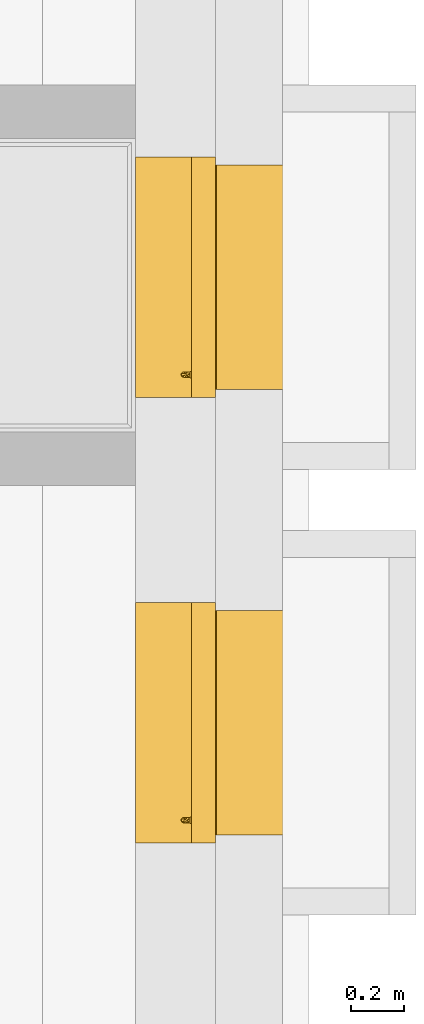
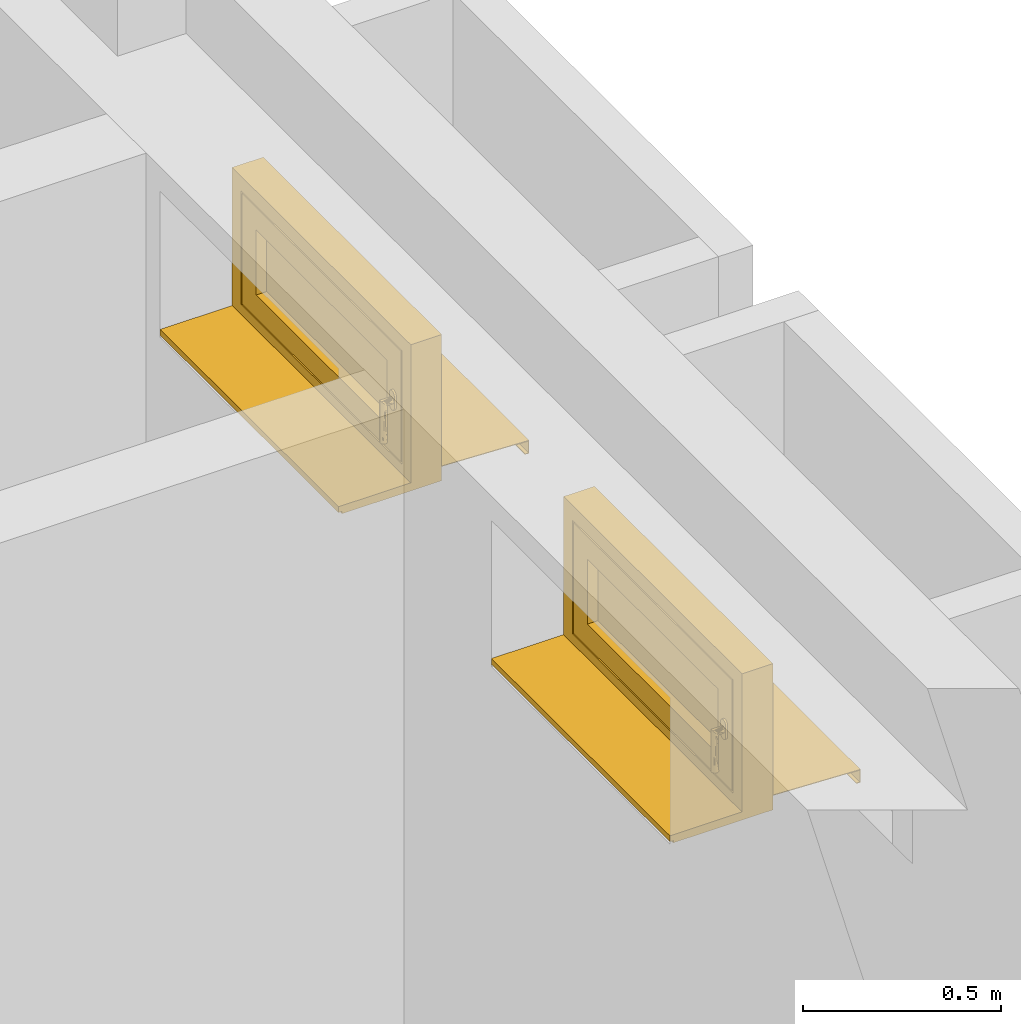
# One storey, part 19 of 22: 2 windows.
"""IFC2X3 building model written with IfcOpenShell, lengths in metres."""

from ifc_helpers import new_model, entity, si_unit, converted_unit, derived_unit, direction, frame, origin, origin_2d_with_axis, place, context, subcontext, project, spatial, polyline, rectangle, outline, extrude, faceted_brep, source, transform, mapped, material, material_list, type_object, type_shapes, element, save


model = new_model("IFC2X3")

# Units and contexts
model_context = context("Model", 3, precision=1e-05, world=origin(), true_north=direction((6.123233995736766e-17, 1.0)))
body_context = subcontext(model_context, "Body", "Model", "MODEL_VIEW")
ifc_project = project(units=[si_unit("LENGTHUNIT", "METRE"), si_unit("AREAUNIT", "SQUARE_METRE"), si_unit("VOLUMEUNIT", "CUBIC_METRE"), si_unit("POWERUNIT", "WATT"), derived_unit("USERDEFINED", [(si_unit("MASSUNIT", "GRAM", prefix="KILO"), 1), (si_unit("TIMEUNIT", "SECOND"), -3)]), derived_unit("THERMALRESISTANCEUNIT", [(si_unit("MASSUNIT", "GRAM", prefix="KILO"), -1), (si_unit("TIMEUNIT", "SECOND"), 3), (si_unit("THERMODYNAMICTEMPERATUREUNIT", "KELVIN"), 1)]), derived_unit("USERDEFINED", [(si_unit("MASSUNIT", "GRAM", prefix="KILO"), 1), (si_unit("TIMEUNIT", "SECOND"), -2), (si_unit("THERMODYNAMICTEMPERATUREUNIT", "KELVIN"), -1)]), derived_unit("THERMALTRANSMITTANCEUNIT", [(si_unit("MASSUNIT", "GRAM", prefix="KILO"), 1), (si_unit("TIMEUNIT", "SECOND"), -3), (si_unit("THERMODYNAMICTEMPERATUREUNIT", "KELVIN"), -1)]), converted_unit("PLANEANGLEUNIT", "DEGREE", entity("IfcPlaneAngleMeasure", 0.017453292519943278), si_unit("PLANEANGLEUNIT", "RADIAN"), dimensions=[0, 0, 0, 0, 0, 0, 0]), derived_unit("MOMENTOFINERTIAUNIT", [(si_unit("LENGTHUNIT", "METRE"), 4)])], contexts=[model_context])

# Site, building, storey
site_placement = place(None, origin())
site = spatial("IfcSite", under=ifc_project, at=site_placement, Name="Default", CompositionType="ELEMENT")
building_placement = place(site_placement, origin())
building = spatial("IfcBuilding", under=site, at=building_placement, CompositionType="ELEMENT")
storey_placement = place(building_placement, origin())
storey = spatial("IfcBuildingStorey", under=building, at=storey_placement, Name="Untergeschoss", CompositionType="ELEMENT", Elevation=0.0)

# Windows
ifc_material_1 = material(Name="Glas - Isolierverglasung klar")
ifc_material_2 = material(Name="Holz - generisch 140-100-70")
ifc_material_3 = material(Name="Metall - Edelstahl gebürstet")
ifc_material_4 = material(Name="Kunststoff - grau 70-70-70")
ifc_material_list = material_list([ifc_material_1, ifc_material_2, ifc_material_3, ifc_material_4])
window_style = type_object("IfcWindowStyle", Name="FE 1 tlg - DrehKipp:900 x 450", ConstructionType="NOTDEFINED", OperationType="NOTDEFINED", ParameterTakesPrecedence=False, Sizeable=False, material=ifc_material_list)
shared_shape = source(origin(), body_context, "Body", "SolidModel", [
    extrude(rectangle(XDim=0.04399999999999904, YDim=0.6600000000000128, at=origin_2d_with_axis()), frame((0.45000000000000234, -0.2870000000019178, 0.13000000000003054), z_axis=(0.0, 0.0, 1.0), x_axis=(0.0, -1.0, 0.0)), (0.0, 0.0, 1.0), 0.19999999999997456),
    extrude(outline(polyline([(-0.014333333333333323, -0.07333333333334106), (0.0036666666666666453, -0.07333333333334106), (0.0036666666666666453, -0.06333333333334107), (0.010666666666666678, -0.06333333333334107), (0.010666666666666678, 0.13666666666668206), (-0.014333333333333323, 0.13666666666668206), (-0.014333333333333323, -0.07333333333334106)])), frame((0.0, -0.47666666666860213, 0.010666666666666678), z_axis=(1.0, 0.0, 0.0), x_axis=(0.0, 0.0, -1.0)), (0.0, 0.0, 1.0), 0.8999999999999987),
    faceted_brep([(0.8270740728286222, -0.3400000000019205, 0.20926476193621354), (0.8258253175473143, -0.3400000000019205, 0.20624999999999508), (0.8238388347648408, -0.3400000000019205, 0.20366116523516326), (0.8212500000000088, -0.3400000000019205, 0.20167468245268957), (0.8182352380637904, -0.3400000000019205, 0.2004259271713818), (0.8150000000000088, -0.3400000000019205, 0.19999999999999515), (0.8117647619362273, -0.3400000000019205, 0.2004259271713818), (0.8087500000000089, -0.3400000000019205, 0.20167468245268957), (0.8061611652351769, -0.3400000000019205, 0.20366116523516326), (0.8041746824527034, -0.3400000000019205, 0.20624999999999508), (0.8029259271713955, -0.3400000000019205, 0.20926476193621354), (0.8025000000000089, -0.3400000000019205, 0.212499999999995), (0.802500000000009, -0.3400000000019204, 0.2299999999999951), (0.802500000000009, -0.3400000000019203, 0.24749999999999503), (0.8029259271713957, -0.3400000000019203, 0.2507352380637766), (0.8041746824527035, -0.3400000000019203, 0.2537499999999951), (0.8061611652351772, -0.3400000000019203, 0.25633883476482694), (0.8087500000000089, -0.34000000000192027, 0.2583253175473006), (0.8117647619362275, -0.34000000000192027, 0.2595740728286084), (0.8150000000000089, -0.34000000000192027, 0.259999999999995), (0.8182352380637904, -0.34000000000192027, 0.2595740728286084), (0.821250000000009, -0.34000000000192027, 0.2583253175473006), (0.8238388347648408, -0.3400000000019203, 0.25633883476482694), (0.8258253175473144, -0.3400000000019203, 0.2537499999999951), (0.8270740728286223, -0.3400000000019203, 0.2507352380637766), (0.827500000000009, -0.3400000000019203, 0.24749999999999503), (0.827500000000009, -0.3400000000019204, 0.2299999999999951), (0.8275000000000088, -0.3400000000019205, 0.212499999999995), (0.8246592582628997, -0.37258819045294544, 0.23258819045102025), (0.820000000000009, -0.3460000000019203, 0.23866025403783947), (0.8236602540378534, -0.3750000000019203, 0.23499999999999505), (0.8175881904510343, -0.3460000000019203, 0.23965925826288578), (0.8220710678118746, -0.37707106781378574, 0.23707106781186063), (0.8175881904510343, -0.37965925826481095, 0.23965925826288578), (0.820000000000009, -0.37866025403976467, 0.23866025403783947), (0.8100000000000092, -0.3786602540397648, 0.23866025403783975), (0.812411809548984, -0.37965925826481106, 0.23965925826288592), (0.8150000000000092, -0.3800000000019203, 0.23999999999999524), (0.8150000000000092, -0.3460000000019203, 0.2399999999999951), (0.8246592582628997, -0.3460000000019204, 0.23258819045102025), (0.825000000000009, -0.37000000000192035, 0.2299999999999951), (0.825000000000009, -0.3670710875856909, 0.2299999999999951), (0.825000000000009, -0.3641421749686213, 0.2299999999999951), (0.825000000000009, -0.3582843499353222, 0.2299999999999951), (0.825000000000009, -0.3460000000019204, 0.2299999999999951), (0.8236602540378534, -0.3460000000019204, 0.23499999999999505), (0.8220710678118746, -0.3460000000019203, 0.2370710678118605), (0.8079289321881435, -0.37707106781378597, 0.23707106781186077), (0.8053407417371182, -0.3725881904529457, 0.23258819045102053), (0.8063397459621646, -0.3750000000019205, 0.2349999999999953), (0.8100000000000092, -0.3460000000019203, 0.2386602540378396), (0.812411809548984, -0.3460000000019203, 0.23965925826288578), (0.8050000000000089, -0.37000000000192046, 0.22999999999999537), (0.8079289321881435, -0.3460000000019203, 0.23707106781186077), (0.8063397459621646, -0.3460000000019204, 0.2349999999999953), (0.8053407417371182, -0.3460000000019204, 0.23258819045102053), (0.8050000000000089, -0.3460000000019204, 0.22999999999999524), (0.8050000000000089, -0.35828435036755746, 0.22999999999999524), (0.8050000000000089, -0.3641421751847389, 0.2299999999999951), (0.8050000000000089, -0.3670710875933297, 0.2299999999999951), (0.8063397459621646, -0.3650000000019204, 0.22499999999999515), (0.8079289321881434, -0.36292893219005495, 0.22292893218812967), (0.8053407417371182, -0.3674118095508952, 0.22741180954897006), (0.8053407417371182, -0.3460000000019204, 0.22741180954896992), (0.8236602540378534, -0.3650000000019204, 0.22499999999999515), (0.8246592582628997, -0.36741180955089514, 0.22741180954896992), (0.8246592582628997, -0.3460000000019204, 0.22741180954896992), (0.8079289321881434, -0.3460000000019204, 0.22292893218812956), (0.8124118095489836, -0.3603407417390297, 0.22034074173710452), (0.8100000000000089, -0.36133974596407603, 0.22133974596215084), (0.8063397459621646, -0.3460000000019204, 0.22499999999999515), (0.8100000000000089, -0.3460000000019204, 0.2213397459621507), (0.8124118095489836, -0.3460000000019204, 0.22034074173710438), (0.8150000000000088, -0.3460000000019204, 0.21999999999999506), (0.8150000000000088, -0.3600000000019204, 0.2199999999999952), (0.8200000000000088, -0.36133974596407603, 0.2213397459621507), (0.8220710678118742, -0.3629289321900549, 0.22292893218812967), (0.8220710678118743, -0.3460000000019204, 0.22292893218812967), (0.817588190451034, -0.3603407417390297, 0.22034074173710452), (0.8175881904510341, -0.3460000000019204, 0.22034074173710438), (0.8200000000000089, -0.3460000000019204, 0.2213397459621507), (0.8236602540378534, -0.3460000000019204, 0.22499999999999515), (0.8236602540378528, -0.36500000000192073, 0.1099999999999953), (0.8246592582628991, -0.36741180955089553, 0.1099999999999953), (0.8250000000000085, -0.37000000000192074, 0.1099999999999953), (0.8246592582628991, -0.37258819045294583, 0.1099999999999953), (0.8236602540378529, -0.3750000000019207, 0.1099999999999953), (0.822071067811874, -0.37707106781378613, 0.1099999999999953), (0.8200000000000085, -0.37866025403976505, 0.1099999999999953), (0.8175881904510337, -0.3796592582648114, 0.1099999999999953), (0.8150000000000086, -0.3800000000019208, 0.1099999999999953), (0.8124118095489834, -0.3796592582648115, 0.1099999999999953), (0.8100000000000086, -0.3786602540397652, 0.1099999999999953), (0.8079289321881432, -0.37707106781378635, 0.1099999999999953), (0.8063397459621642, -0.3750000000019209, 0.1099999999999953), (0.8053407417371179, -0.3725881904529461, 0.1099999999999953), (0.8050000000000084, -0.37000000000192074, 0.1099999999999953), (0.8053407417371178, -0.36741180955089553, 0.1099999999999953), (0.8063397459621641, -0.36500000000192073, 0.1099999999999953), (0.807928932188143, -0.3629289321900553, 0.1099999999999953), (0.8100000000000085, -0.36133974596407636, 0.1099999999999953), (0.8124118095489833, -0.36034074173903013, 0.1099999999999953), (0.8150000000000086, -0.3600000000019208, 0.1099999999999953), (0.8175881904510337, -0.36034074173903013, 0.1099999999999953), (0.8200000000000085, -0.36133974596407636, 0.1099999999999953), (0.822071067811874, -0.3629289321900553, 0.1099999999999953), (0.8250000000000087, -0.37000000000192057, 0.17479130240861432), (0.8250000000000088, -0.3700000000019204, 0.202395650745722), (0.8050000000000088, -0.37000000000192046, 0.20239565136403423), (0.8050000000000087, -0.37000000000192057, 0.1747913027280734), (0.8061611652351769, -0.34600000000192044, 0.2036611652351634), (0.8041746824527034, -0.34600000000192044, 0.20624999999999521), (0.8087500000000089, -0.34600000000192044, 0.20167468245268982), (0.8117647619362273, -0.34600000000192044, 0.20042592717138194), (0.8150000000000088, -0.34600000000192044, 0.19999999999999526), (0.8182352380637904, -0.34600000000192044, 0.20042592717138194), (0.8212500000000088, -0.34600000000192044, 0.20167468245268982), (0.8238388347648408, -0.34600000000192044, 0.2036611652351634), (0.8258253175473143, -0.34600000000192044, 0.20624999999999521), (0.8270740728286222, -0.34600000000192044, 0.20926476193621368), (0.8275000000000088, -0.34600000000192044, 0.21249999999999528), (0.827500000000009, -0.3460000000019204, 0.22999999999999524), (0.827500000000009, -0.3460000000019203, 0.2474999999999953), (0.8270740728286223, -0.3460000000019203, 0.25073523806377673), (0.8258253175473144, -0.3460000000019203, 0.25374999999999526), (0.8238388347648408, -0.3460000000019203, 0.25633883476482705), (0.821250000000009, -0.3460000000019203, 0.25832531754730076), (0.8182352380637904, -0.34600000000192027, 0.25957407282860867), (0.8150000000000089, -0.34600000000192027, 0.2599999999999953), (0.8117647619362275, -0.34600000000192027, 0.25957407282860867), (0.8087500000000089, -0.3460000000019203, 0.25832531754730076), (0.8061611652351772, -0.3460000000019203, 0.25633883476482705), (0.8041746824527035, -0.3460000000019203, 0.25374999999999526), (0.8029259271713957, -0.3460000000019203, 0.25073523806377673), (0.802500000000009, -0.3460000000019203, 0.2474999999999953), (0.802500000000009, -0.3460000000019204, 0.22999999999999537), (0.8025000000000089, -0.34600000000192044, 0.21249999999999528), (0.8029259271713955, -0.34600000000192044, 0.20926476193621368)], [[[0, 1, 2, 3, 4, 5, 6, 7, 8, 9, 10, 11, 12, 13, 14, 15, 16, 17, 18, 19, 20, 21, 22, 23, 24, 25, 26, 27]], [[28, 29, 30]], [[30, 31, 32]], [[33, 34, 35, 36, 37]], [[38, 32, 31]], [[34, 32, 38]], [[39, 40, 41, 42, 43, 44]], [[45, 40, 39]], [[40, 45, 46]], [[29, 28, 46]], [[46, 28, 40]], [[29, 31, 30]], [[38, 35, 34]], [[35, 38, 47]], [[48, 49, 50]], [[51, 49, 47]], [[52, 48, 53]], [[47, 38, 51]], [[49, 51, 50]], [[52, 53, 54]], [[55, 56, 57, 58, 59, 52]], [[55, 52, 54]], [[53, 48, 50]], [[60, 57, 61]], [[59, 58, 62, 52]], [[56, 63, 57]], [[64, 43, 42]], [[41, 40, 65, 42]], [[44, 43, 66]], [[67, 68, 69]], [[67, 69, 57]], [[69, 61, 57]], [[63, 70, 57]], [[67, 71, 68]], [[67, 57, 70]], [[72, 68, 71]], [[72, 73, 74, 68]], [[75, 43, 76]], [[77, 75, 78]], [[65, 64, 42]], [[76, 43, 64]], [[79, 78, 74, 73]], [[78, 79, 80]], [[62, 58, 60]], [[43, 75, 77]], [[60, 58, 57]], [[81, 66, 43]], [[77, 81, 43]], [[77, 78, 80]], [[82, 83, 84, 85, 86, 87, 88, 89, 90, 91, 92, 93, 94, 95, 96, 97, 98, 99, 100, 101, 102, 103, 104, 105]], [[85, 84, 106, 107, 40]], [[85, 40, 86]], [[34, 33, 89, 88]], [[87, 86, 28]], [[88, 87, 32, 34]], [[28, 30, 87]], [[86, 40, 28]], [[87, 30, 32]], [[33, 37, 90, 89]], [[47, 93, 92, 35]], [[35, 92, 91, 36]], [[95, 52, 108, 109, 96]], [[52, 95, 94]], [[48, 94, 93]], [[90, 37, 36, 91]], [[47, 49, 93]], [[49, 48, 93]], [[48, 52, 94]], [[99, 98, 109]], [[97, 109, 98]], [[109, 68, 101]], [[101, 100, 109]], [[100, 99, 109]], [[96, 109, 97]], [[108, 52, 62]], [[108, 62, 60]], [[102, 101, 68, 74]], [[68, 109, 69]], [[61, 69, 109]], [[60, 61, 108]], [[65, 107, 64]], [[108, 61, 109]], [[104, 106, 105]], [[103, 106, 104]], [[83, 106, 84]], [[107, 65, 40]], [[82, 106, 83]], [[105, 106, 82]], [[103, 102, 74, 78]], [[78, 106, 103]], [[75, 76, 106]], [[76, 107, 106]], [[106, 78, 75]], [[76, 64, 107]], [[110, 73, 111]], [[112, 73, 110]], [[112, 113, 73]], [[114, 73, 113]], [[115, 73, 114]], [[115, 116, 73]], [[117, 73, 116]], [[117, 118, 73]], [[118, 79, 73]], [[79, 118, 119]], [[119, 120, 79]], [[120, 80, 79]], [[120, 77, 80]], [[77, 120, 81]], [[81, 120, 121]], [[66, 81, 121]], [[44, 66, 121]], [[39, 44, 121]], [[45, 39, 121]], [[45, 121, 122]], [[122, 46, 45]], [[122, 29, 46]], [[122, 31, 29]], [[122, 123, 31]], [[124, 31, 123]], [[124, 38, 31]], [[125, 38, 124]], [[38, 125, 126]], [[38, 126, 127]], [[127, 128, 38]], [[128, 129, 38]], [[38, 129, 130]], [[130, 131, 38]], [[132, 38, 131]], [[38, 132, 51]], [[51, 132, 133]], [[134, 51, 133]], [[134, 50, 51]], [[134, 53, 50]], [[134, 54, 53]], [[134, 135, 54]], [[55, 54, 135]], [[135, 56, 55]], [[63, 56, 135]], [[70, 63, 135]], [[136, 70, 135]], [[136, 67, 70]], [[136, 71, 67]], [[71, 136, 72]], [[72, 136, 137]], [[111, 72, 137]], [[111, 73, 72]], [[13, 134, 133, 14]], [[14, 133, 132, 15]], [[17, 16, 131, 130]], [[131, 16, 15, 132]], [[18, 17, 130, 129]], [[18, 129, 128, 19]], [[19, 128, 127, 20]], [[20, 127, 126, 21]], [[23, 22, 125, 124]], [[125, 22, 21, 126]], [[24, 23, 124, 123]], [[24, 123, 122, 25]], [[26, 25, 122, 121, 120, 27]], [[27, 120, 119, 0]], [[0, 119, 118, 1]], [[3, 2, 117, 116]], [[117, 2, 1, 118]], [[4, 3, 116, 115]], [[4, 115, 114, 5]], [[5, 114, 113, 6]], [[6, 113, 112, 7]], [[9, 8, 110, 111]], [[110, 8, 7, 112]], [[10, 9, 111, 137]], [[10, 137, 136, 11]], [[12, 11, 136, 135, 134, 13]]]),
    faceted_brep([(0.12000000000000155, -0.34000000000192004, 0.3299999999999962), (0.12000000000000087, -0.34000000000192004, 0.12999999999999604), (0.12000000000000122, -0.2500000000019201, 0.1299999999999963), (0.12000000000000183, -0.2500000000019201, 0.3299999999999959), (0.7800000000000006, -0.2500000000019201, 0.129999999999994), (0.7800000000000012, -0.2500000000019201, 0.32999999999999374), (0.09000000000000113, -0.2500000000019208, 0.09999999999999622), (0.09000000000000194, -0.25000000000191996, 0.3599999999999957), (0.8100000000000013, -0.25000000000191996, 0.35999999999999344), (0.8100000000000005, -0.2500000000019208, 0.09999999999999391), (0.7800000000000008, -0.34000000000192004, 0.12999999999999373), (0.7800000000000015, -0.34000000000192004, 0.329999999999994), (0.050000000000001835, -0.3400000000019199, 0.39999999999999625), (0.050000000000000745, -0.3400000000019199, 0.059999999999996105), (0.8500000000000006, -0.3400000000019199, 0.05999999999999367), (0.8500000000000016, -0.3400000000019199, 0.3999999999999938), (0.0500000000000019, -0.32500000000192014, 0.39999999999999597), (0.050000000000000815, -0.32500000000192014, 0.059999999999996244), (0.8500000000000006, -0.32500000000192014, 0.05999999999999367), (0.8500000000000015, -0.32500000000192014, 0.3999999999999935), (0.06500000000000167, -0.3250000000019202, 0.3849999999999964), (0.06500000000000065, -0.3250000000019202, 0.07499999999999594), (0.8350000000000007, -0.3250000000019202, 0.07499999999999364), (0.8350000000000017, -0.3250000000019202, 0.38499999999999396), (0.06500000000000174, -0.2950000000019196, 0.3849999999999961), (0.0650000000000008, -0.2950000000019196, 0.07499999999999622), (0.8350000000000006, -0.2950000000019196, 0.07499999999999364), (0.8350000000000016, -0.2950000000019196, 0.3849999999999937), (0.07500000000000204, -0.2950000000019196, 0.37499999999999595), (0.0750000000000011, -0.2950000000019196, 0.08499999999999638), (0.8250000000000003, -0.2950000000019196, 0.08499999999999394), (0.8250000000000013, -0.2950000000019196, 0.3749999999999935), (0.0750000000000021, -0.2650000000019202, 0.3749999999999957), (0.07500000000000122, -0.2650000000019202, 0.08499999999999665), (0.8250000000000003, -0.2650000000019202, 0.08499999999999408), (0.8250000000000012, -0.2650000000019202, 0.3749999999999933), (0.09000000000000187, -0.2650000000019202, 0.359999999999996), (0.09000000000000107, -0.2650000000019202, 0.09999999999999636), (0.8100000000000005, -0.2650000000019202, 0.09999999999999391), (0.8100000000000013, -0.2650000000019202, 0.35999999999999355)], [[[0, 1, 2, 3]], [[3, 2, 4, 5], [6, 7, 8, 9]], [[1, 10, 4, 2]], [[1, 0, 11, 10], [12, 13, 14, 15]], [[16, 17, 13, 12]], [[17, 18, 14, 13]], [[17, 16, 19, 18], [20, 21, 22, 23]], [[24, 25, 21, 20]], [[25, 26, 22, 21]], [[25, 24, 27, 26], [28, 29, 30, 31]], [[32, 33, 29, 28]], [[33, 34, 30, 29]], [[33, 32, 35, 34], [36, 37, 38, 39]], [[7, 6, 37, 36]], [[6, 9, 38, 37]], [[10, 11, 5, 4]], [[18, 19, 15, 14]], [[26, 27, 23, 22]], [[34, 35, 31, 30]], [[9, 8, 39, 38]], [[11, 0, 3, 5]], [[19, 16, 12, 15]], [[27, 24, 20, 23]], [[35, 32, 28, 31]], [[8, 7, 36, 39]]], outer=[[True], [False, True], [True], [False, True], [True], [True], [True, False], [True], [True], [True, False], [True], [True], [True, False], [True], [True], [True], [True], [True], [True], [True], [True], [True], [True], [True], [True]]),
    faceted_brep([(0.030000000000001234, 0.02199999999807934, 0.011120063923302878), (0.030000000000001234, 0.0, 0.012000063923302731), (0.0299999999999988, -0.2480000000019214, 0.021920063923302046), (0.8700000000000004, -0.2480000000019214, 0.021920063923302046), (0.8699999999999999, 0.0, 0.012000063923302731), (0.8699999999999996, 0.021999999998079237, 0.011120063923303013), (0.030000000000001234, 0.021999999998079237, -0.028879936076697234), (0.8699999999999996, 0.021999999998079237, -0.02887993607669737), (0.030000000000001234, 0.009999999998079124, -0.02887993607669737), (0.8699999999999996, 0.009999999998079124, -0.02887993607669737), (0.030000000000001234, 0.009999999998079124, -0.026879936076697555), (0.8699999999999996, 0.009999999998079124, -0.02687993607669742), (0.030000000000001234, 0.019999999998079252, -0.02687993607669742), (0.8699999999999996, 0.019999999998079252, -0.02687993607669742), (0.030000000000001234, 0.019999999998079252, 0.00920000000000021), (0.8699999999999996, 0.019999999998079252, 0.00920000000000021), (0.030000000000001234, 0.0, 0.010000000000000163), (0.8699999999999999, 0.0, 0.010000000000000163), (0.8700000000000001, -0.2500000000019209, 0.02000000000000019), (0.0299999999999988, -0.25000000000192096, 0.02000000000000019), (0.0299999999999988, -0.2500000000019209, 0.040000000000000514), (0.8700000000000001, -0.2500000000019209, 0.040000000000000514), (0.0299999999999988, -0.2480000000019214, 0.040000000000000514), (0.8700000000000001, -0.2480000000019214, 0.040000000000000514)], [[[0, 1, 2, 3, 4, 5]], [[6, 0, 5, 7]], [[8, 6, 7, 9]], [[10, 8, 9, 11]], [[12, 10, 11, 13]], [[14, 12, 13, 15]], [[16, 14, 15, 17, 18, 19]], [[20, 19, 18, 21]], [[22, 20, 21, 23]], [[2, 22, 23, 3]], [[16, 1, 0, 6, 8, 10, 12, 14]], [[17, 4, 3, 23, 21, 18]], [[1, 16, 19, 20, 22, 2]], [[4, 17, 15, 13, 11, 9, 7, 5]]]),
    faceted_brep([(0.9, -0.2500000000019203, 0.0), (0.8999999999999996, -0.34000000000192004, 0.0), (0.0, -0.34000000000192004, 0.0), (0.0, -0.2500000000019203, 0.0), (0.9, -0.2500000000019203, 0.44999999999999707), (0.8999999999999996, -0.34000000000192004, 0.44999999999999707), (0.8549999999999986, -0.34000000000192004, 0.40499999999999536), (0.8549999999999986, -0.34000000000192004, 0.0550000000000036), (0.045000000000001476, -0.34000000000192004, 0.05500000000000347), (0.045000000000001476, -0.34000000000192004, 0.40499999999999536), (0.0, -0.34000000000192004, 0.44999999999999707), (0.0, -0.2500000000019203, 0.44999999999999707), (0.8149999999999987, -0.2500000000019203, 0.09500000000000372), (0.8149999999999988, -0.2500000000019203, 0.3649999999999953), (0.08500000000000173, -0.2500000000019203, 0.3649999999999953), (0.08500000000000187, -0.2500000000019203, 0.09500000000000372), (0.8149999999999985, -0.2650000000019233, 0.09500000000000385), (0.8149999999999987, -0.2650000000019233, 0.3649999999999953), (0.08500000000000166, -0.26500000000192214, 0.09500000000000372), (0.08500000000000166, -0.26500000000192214, 0.3649999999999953), (0.8549999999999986, -0.3250000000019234, 0.4049999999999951), (0.8549999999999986, -0.3250000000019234, 0.0550000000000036), (0.045000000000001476, -0.32500000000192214, 0.0550000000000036), (0.045000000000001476, -0.32500000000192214, 0.40499999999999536), (0.8399999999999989, -0.3250000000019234, 0.38999999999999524), (0.8399999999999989, -0.3250000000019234, 0.07000000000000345), (0.06000000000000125, -0.32500000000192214, 0.07000000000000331), (0.060000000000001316, -0.32500000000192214, 0.3899999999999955), (0.8399999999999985, -0.2950000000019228, 0.07000000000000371), (0.8399999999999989, -0.2950000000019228, 0.38999999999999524), (0.06000000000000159, -0.29500000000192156, 0.38999999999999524), (0.060000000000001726, -0.29500000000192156, 0.07000000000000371), (0.8299999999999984, -0.2950000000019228, 0.37999999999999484), (0.8299999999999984, -0.2950000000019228, 0.08000000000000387), (0.07000000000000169, -0.29500000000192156, 0.08000000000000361), (0.07000000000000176, -0.29500000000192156, 0.3799999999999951), (0.8299999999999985, -0.2650000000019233, 0.08000000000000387), (0.8299999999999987, -0.2650000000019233, 0.3799999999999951), (0.07000000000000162, -0.26500000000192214, 0.3799999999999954), (0.07000000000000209, -0.26500000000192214, 0.08000000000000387)], [[[0, 1, 2, 3]], [[4, 5, 1, 0]], [[6, 7, 8, 9], [5, 10, 2, 1]], [[10, 11, 3, 2]], [[12, 13, 14, 15], [11, 4, 0, 3]], [[12, 16, 17, 13]], [[18, 15, 14, 19]], [[16, 12, 15, 18]], [[20, 21, 7, 6]], [[7, 21, 22, 8]], [[8, 22, 23, 9]], [[21, 20, 23, 22], [24, 25, 26, 27]], [[28, 29, 30, 31], [32, 33, 34, 35]], [[29, 28, 25, 24]], [[25, 28, 31, 26]], [[17, 16, 18, 19], [36, 37, 38, 39]], [[37, 36, 33, 32]], [[33, 36, 39, 34]], [[26, 31, 30, 27]], [[34, 39, 38, 35]], [[4, 11, 10, 5]], [[20, 6, 9, 23]], [[29, 24, 27, 30]], [[37, 32, 35, 38]], [[13, 17, 19, 14]]], outer=[[True], [True], [False, True], [True], [False, True], [True], [True], [True], [True], [True], [True], [True, False], [True, False], [True], [True], [False, True], [True], [True], [True], [True], [True], [True], [True], [True], [True]]),
])
type_shapes(window_style, [shared_shape])
for number, where, z_axis, x_axis, name in (
    (1, (38.626720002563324, 20.122272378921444, 1.825), (0.0, 0.0, 1.0), (0.0, -1.0, 0.0), "FE 1 tlg - DrehKipp:900 x 450"),
    (2, (38.62672000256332, 18.452272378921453, 1.825), (0.0, 0.0, 1.0), (0.0, -1.0, 0.0), "FE 1 tlg - DrehKipp:900 x 450"),
):
    element("IfcWindow", number, at=place(storey_placement, frame(where, z_axis=z_axis, x_axis=x_axis)), inside=storey, type_object=window_style, material=ifc_material_list, Name=name, ObjectType="FE 1 tlg - DrehKipp:900 x 450", OverallHeight=1.3000000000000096, OverallWidth=0.9000000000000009, context=body_context, shape_type="MappedRepresentation", body=[
        mapped(shared_shape, transform((0.0, 0.0, 0.0), scale=1.0)),
    ])

save(model, "model.ifc")
